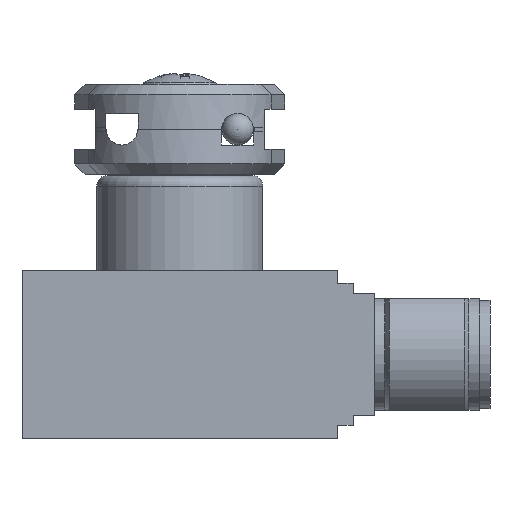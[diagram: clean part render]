
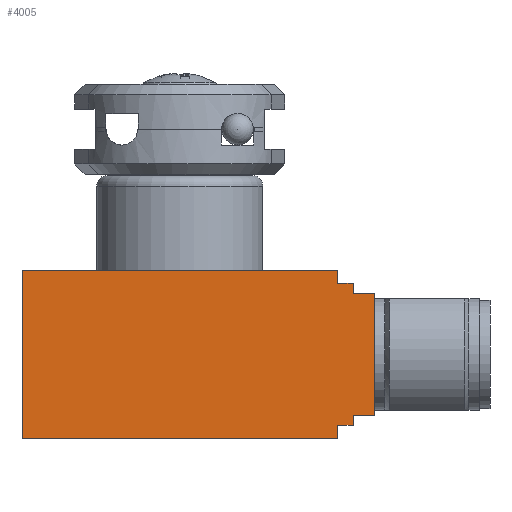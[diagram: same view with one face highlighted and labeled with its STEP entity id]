
A CAD part, front view. The second image highlights one B-rep face of the part: STEP entity #4005.
In plain terms, the highlighted planar face has unit normal (0, -1, 0) as drawn and (0, 0, -1) by its records, which use the part's own axes.
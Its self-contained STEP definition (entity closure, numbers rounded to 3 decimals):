
#193=PLANE('',#4468);
#361=FACE_OUTER_BOUND('',#598,.T.);
#598=EDGE_LOOP('',(#2947,#2948,#2949,#2950,#2951,#2952,#2953,#2954,#2955,
#2956,#2957,#2958));
#854=LINE('',#6170,#1225);
#857=LINE('',#6174,#1228);
#859=LINE('',#6179,#1230);
#861=LINE('',#6182,#1232);
#862=LINE('',#6184,#1233);
#869=LINE('',#6241,#1240);
#872=LINE('',#6248,#1243);
#875=LINE('',#6253,#1246);
#876=LINE('',#6255,#1247);
#877=LINE('',#6258,#1248);
#878=LINE('',#6260,#1249);
#879=LINE('',#6261,#1250);
#1225=VECTOR('',#5017,1.25);
#1228=VECTOR('',#5020,1.25);
#1230=VECTOR('',#5024,16.);
#1232=VECTOR('',#5028,30.);
#1233=VECTOR('',#5031,30.);
#1240=VECTOR('',#5064,0.95);
#1243=VECTOR('',#5069,0.95);
#1246=VECTOR('',#5076,1.5);
#1247=VECTOR('',#5079,1.5);
#1248=VECTOR('',#5082,2.);
#1249=VECTOR('',#5083,11.6);
#1250=VECTOR('',#5084,2.);
#1760=VERTEX_POINT('',#6163);
#1762=VERTEX_POINT('',#6167);
#1763=VERTEX_POINT('',#6169);
#1764=VERTEX_POINT('',#6172);
#1765=VERTEX_POINT('',#6176);
#1766=VERTEX_POINT('',#6178);
#1776=VERTEX_POINT('',#6234);
#1778=VERTEX_POINT('',#6238);
#1779=VERTEX_POINT('',#6240);
#1782=VERTEX_POINT('',#6246);
#1783=VERTEX_POINT('',#6257);
#1784=VERTEX_POINT('',#6259);
#2182=EDGE_CURVE('',#1762,#1763,#854,.T.);
#2185=EDGE_CURVE('',#1764,#1760,#857,.T.);
#2187=EDGE_CURVE('',#1765,#1766,#859,.T.);
#2189=EDGE_CURVE('',#1763,#1765,#861,.T.);
#2190=EDGE_CURVE('',#1766,#1764,#862,.T.);
#2210=EDGE_CURVE('',#1779,#1778,#869,.T.);
#2214=EDGE_CURVE('',#1776,#1782,#872,.T.);
#2217=EDGE_CURVE('',#1762,#1779,#875,.T.);
#2218=EDGE_CURVE('',#1760,#1782,#876,.T.);
#2219=EDGE_CURVE('',#1778,#1783,#877,.T.);
#2220=EDGE_CURVE('',#1783,#1784,#878,.T.);
#2221=EDGE_CURVE('',#1776,#1784,#879,.T.);
#2947=ORIENTED_EDGE('',*,*,#2219,.T.);
#2948=ORIENTED_EDGE('',*,*,#2220,.T.);
#2949=ORIENTED_EDGE('',*,*,#2221,.F.);
#2950=ORIENTED_EDGE('',*,*,#2214,.T.);
#2951=ORIENTED_EDGE('',*,*,#2218,.F.);
#2952=ORIENTED_EDGE('',*,*,#2185,.F.);
#2953=ORIENTED_EDGE('',*,*,#2190,.F.);
#2954=ORIENTED_EDGE('',*,*,#2187,.F.);
#2955=ORIENTED_EDGE('',*,*,#2189,.F.);
#2956=ORIENTED_EDGE('',*,*,#2182,.F.);
#2957=ORIENTED_EDGE('',*,*,#2217,.T.);
#2958=ORIENTED_EDGE('',*,*,#2210,.T.);
#4005=ADVANCED_FACE('',(#361),#193,.T.);
#4468=AXIS2_PLACEMENT_3D('',#6256,#5080,#5081);
#5017=DIRECTION('',(0.,1.,0.));
#5020=DIRECTION('',(0.,1.,0.));
#5024=DIRECTION('',(0.,-1.,0.));
#5028=DIRECTION('',(-1.,0.,0.));
#5031=DIRECTION('',(1.,0.,0.));
#5064=DIRECTION('',(0.,-1.,0.));
#5069=DIRECTION('',(0.,-1.,0.));
#5076=DIRECTION('',(1.,0.,0.));
#5079=DIRECTION('',(1.,0.,0.));
#5080=DIRECTION('center_axis',(0.,0.,-1.));
#5081=DIRECTION('ref_axis',(-1.,0.,0.));
#5082=DIRECTION('',(1.,0.,0.));
#5083=DIRECTION('',(0.,-1.,0.));
#5084=DIRECTION('',(1.,0.,0.));
#6163=CARTESIAN_POINT('',(15.,-14.75,-43.));
#6167=CARTESIAN_POINT('',(15.,-1.25,-43.));
#6169=CARTESIAN_POINT('',(15.,0.,-43.));
#6170=CARTESIAN_POINT('',(15.,-1.25,-43.));
#6172=CARTESIAN_POINT('',(15.,-16.,-43.));
#6174=CARTESIAN_POINT('',(15.,-16.,-43.));
#6176=CARTESIAN_POINT('',(-15.,0.,-43.));
#6178=CARTESIAN_POINT('',(-15.,-16.,-43.));
#6179=CARTESIAN_POINT('',(-15.,0.,-43.));
#6182=CARTESIAN_POINT('',(15.,0.,-43.));
#6184=CARTESIAN_POINT('',(-15.,-16.,-43.));
#6234=CARTESIAN_POINT('',(16.5,-13.8,-43.));
#6238=CARTESIAN_POINT('',(16.5,-2.2,-43.));
#6240=CARTESIAN_POINT('',(16.5,-1.25,-43.));
#6241=CARTESIAN_POINT('',(16.5,-1.25,-43.));
#6246=CARTESIAN_POINT('',(16.5,-14.75,-43.));
#6248=CARTESIAN_POINT('',(16.5,-13.8,-43.));
#6253=CARTESIAN_POINT('',(15.,-1.25,-43.));
#6255=CARTESIAN_POINT('',(15.,-14.75,-43.));
#6256=CARTESIAN_POINT('Origin',(15.,-2.2,-43.));
#6257=CARTESIAN_POINT('',(18.5,-2.2,-43.));
#6258=CARTESIAN_POINT('',(16.5,-2.2,-43.));
#6259=CARTESIAN_POINT('',(18.5,-13.8,-43.));
#6260=CARTESIAN_POINT('',(18.5,-2.2,-43.));
#6261=CARTESIAN_POINT('',(16.5,-13.8,-43.));
